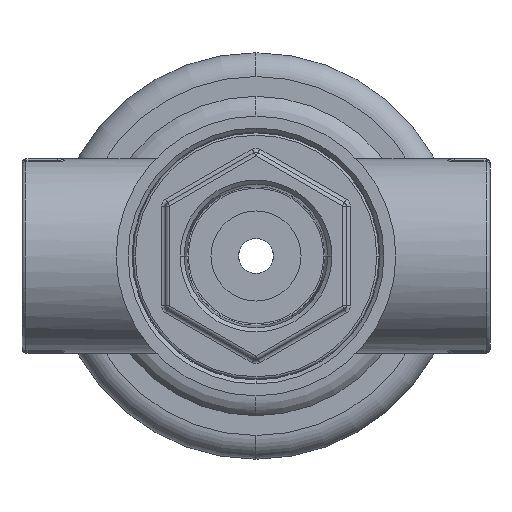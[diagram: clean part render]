
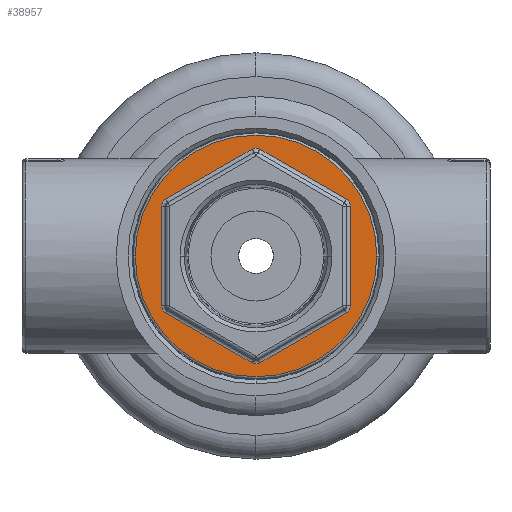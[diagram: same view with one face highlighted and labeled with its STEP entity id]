
A CAD part, front view. The second image highlights one B-rep face of the part: STEP entity #38957.
In plain terms, the highlighted planar face has unit normal (0, -1, 0).
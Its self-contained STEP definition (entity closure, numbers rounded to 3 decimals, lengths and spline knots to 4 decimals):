
#2484 = EDGE_LOOP ( 'NONE', ( #9892, #9893, #9894, #9895, #9896, #9897, #9898, #9899, #9900, #9901, #9902, #9903 ) ) ;
#2498 = EDGE_LOOP ( 'NONE', ( #9890, #9891 ) ) ;
#2602 = VERTEX_POINT ( 'NONE', #37727 ) ;
#2603 = VERTEX_POINT ( 'NONE', #37728 ) ;
#2636 = VERTEX_POINT ( 'NONE', #37761 ) ;
#2642 = VERTEX_POINT ( 'NONE', #37767 ) ;
#2648 = VERTEX_POINT ( 'NONE', #37773 ) ;
#2651 = VERTEX_POINT ( 'NONE', #37776 ) ;
#2652 = VERTEX_POINT ( 'NONE', #37777 ) ;
#2653 = VERTEX_POINT ( 'NONE', #37778 ) ;
#2654 = VERTEX_POINT ( 'NONE', #37779 ) ;
#2655 = VERTEX_POINT ( 'NONE', #37780 ) ;
#7762 = EDGE_CURVE ( 'NONE', #2602, #2603, #26633, .T. ) ;
#9267 = VERTEX_POINT ( 'NONE', #27900 ) ;
#9890 = ORIENTED_EDGE ( 'NONE', *, *, #7762, .T. ) ;
#9891 = ORIENTED_EDGE ( 'NONE', *, *, #10187, .T. ) ;
#9892 = ORIENTED_EDGE ( 'NONE', *, *, #10188, .F. ) ;
#9893 = ORIENTED_EDGE ( 'NONE', *, *, #10189, .T. ) ;
#9894 = ORIENTED_EDGE ( 'NONE', *, *, #10190, .F. ) ;
#9895 = ORIENTED_EDGE ( 'NONE', *, *, #10191, .T. ) ;
#9896 = ORIENTED_EDGE ( 'NONE', *, *, #10192, .F. ) ;
#9897 = ORIENTED_EDGE ( 'NONE', *, *, #10193, .T. ) ;
#9898 = ORIENTED_EDGE ( 'NONE', *, *, #10194, .F. ) ;
#9899 = ORIENTED_EDGE ( 'NONE', *, *, #10195, .T. ) ;
#9900 = ORIENTED_EDGE ( 'NONE', *, *, #10196, .F. ) ;
#9901 = ORIENTED_EDGE ( 'NONE', *, *, #10197, .T. ) ;
#9902 = ORIENTED_EDGE ( 'NONE', *, *, #10198, .F. ) ;
#9903 = ORIENTED_EDGE ( 'NONE', *, *, #10199, .T. ) ;
#10187 = EDGE_CURVE ( 'NONE', #2603, #2602, #26747, .T. ) ;
#10188 = EDGE_CURVE ( 'NONE', #2648, #2636, #26748, .T. ) ;
#10189 = EDGE_CURVE ( 'NONE', #2648, #2652, #26740, .T. ) ;
#10190 = EDGE_CURVE ( 'NONE', #2651, #2652, #26749, .T. ) ;
#10191 = EDGE_CURVE ( 'NONE', #2651, #2654, #26750, .T. ) ;
#10192 = EDGE_CURVE ( 'NONE', #2642, #2654, #26753, .T. ) ;
#10193 = EDGE_CURVE ( 'NONE', #2642, #9267, #26752, .T. ) ;
#10194 = EDGE_CURVE ( 'NONE', #2653, #9267, #26756, .T. ) ;
#10195 = EDGE_CURVE ( 'NONE', #2653, #30864, #26755, .T. ) ;
#10196 = EDGE_CURVE ( 'NONE', #2655, #30864, #26759, .T. ) ;
#10197 = EDGE_CURVE ( 'NONE', #2655, #30817, #26758, .T. ) ;
#10198 = EDGE_CURVE ( 'NONE', #30707, #30817, #26762, .T. ) ;
#10199 = EDGE_CURVE ( 'NONE', #30707, #2636, #26761, .T. ) ;
#26238 = CARTESIAN_POINT ( 'NONE',  ( 0., 0., 0. ) ) ;
#26239 = DIRECTION ( 'NONE',  ( 0., -1., 0. ) ) ;
#26240 = DIRECTION ( 'NONE',  ( 1., 0., 0. ) ) ;
#26633 = CIRCLE ( 'NONE', #41111, 1.5225 ) ;
#26740 = LINE ( 'NONE', #28166, #26751 ) ;
#26747 = CIRCLE ( 'NONE', #41172, 1.5225 ) ;
#26748 = CIRCLE ( 'NONE', #41173, 0.1 ) ;
#26749 = CIRCLE ( 'NONE', #41174, 0.1 ) ;
#26750 = LINE ( 'NONE', #28172, #26754 ) ;
#26751 = VECTOR ( 'NONE', #28162, 39.3701 ) ;
#26752 = LINE ( 'NONE', #28177, #26757 ) ;
#26753 = CIRCLE ( 'NONE', #41175, 0.1 ) ;
#26754 = VECTOR ( 'NONE', #28170, 39.3701 ) ;
#26755 = LINE ( 'NONE', #28182, #26760 ) ;
#26756 = CIRCLE ( 'NONE', #41176, 0.1 ) ;
#26757 = VECTOR ( 'NONE', #28171, 39.3701 ) ;
#26758 = LINE ( 'NONE', #28187, #26763 ) ;
#26759 = CIRCLE ( 'NONE', #41177, 0.1 ) ;
#26760 = VECTOR ( 'NONE', #28176, 39.3701 ) ;
#26761 = LINE ( 'NONE', #28191, #26766 ) ;
#26762 = CIRCLE ( 'NONE', #41178, 0.1 ) ;
#26763 = VECTOR ( 'NONE', #28181, 39.3701 ) ;
#26766 = VECTOR ( 'NONE', #28186, 39.3701 ) ;
#27325 = FACE_OUTER_BOUND ( 'NONE', #2498, .T. ) ;
#27328 = FACE_BOUND ( 'NONE', #2484, .T. ) ;
#27900 = CARTESIAN_POINT ( 'NONE',  ( -1.1906, 0., 0.6297 ) ) ;
#28162 = DIRECTION ( 'NONE',  ( -0.866, 0., -0.5 ) ) ;
#28163 = CARTESIAN_POINT ( 'NONE',  ( 0., 0., 0. ) ) ;
#28164 = DIRECTION ( 'NONE',  ( 0., -1., 0. ) ) ;
#28165 = DIRECTION ( 'NONE',  ( 1., 0., 0. ) ) ;
#28166 = CARTESIAN_POINT ( 'NONE',  ( -0.6066, 0., -1.725 ) ) ;
#28167 = CARTESIAN_POINT ( 'NONE',  ( 1.0906, 0., -0.6297 ) ) ;
#28168 = DIRECTION ( 'NONE',  ( 0., -1., 0. ) ) ;
#28169 = DIRECTION ( 'NONE',  ( 1., 0., 0. ) ) ;
#28170 = DIRECTION ( 'NONE',  ( -0.866, 0., 0.5 ) ) ;
#28171 = DIRECTION ( 'NONE',  ( 0., 0., 1. ) ) ;
#28172 = CARTESIAN_POINT ( 'NONE',  ( -1.7972, 0., -0.3372 ) ) ;
#28173 = CARTESIAN_POINT ( 'NONE',  ( 0., 0., -1.2593 ) ) ;
#28174 = DIRECTION ( 'NONE',  ( 0., -1., 0. ) ) ;
#28175 = DIRECTION ( 'NONE',  ( 1., 0., 0. ) ) ;
#28176 = DIRECTION ( 'NONE',  ( 0.866, 0., 0.5 ) ) ;
#28177 = CARTESIAN_POINT ( 'NONE',  ( -1.1906, 0., 0. ) ) ;
#28178 = CARTESIAN_POINT ( 'NONE',  ( -1.0906, 0., -0.6297 ) ) ;
#28179 = DIRECTION ( 'NONE',  ( 0., -1., 0. ) ) ;
#28180 = DIRECTION ( 'NONE',  ( 1., 0., 0. ) ) ;
#28181 = DIRECTION ( 'NONE',  ( 0.866, 0., -0.5 ) ) ;
#28182 = CARTESIAN_POINT ( 'NONE',  ( -1.7972, 0., 0.3372 ) ) ;
#28183 = CARTESIAN_POINT ( 'NONE',  ( -1.0906, 0., 0.6297 ) ) ;
#28184 = DIRECTION ( 'NONE',  ( 0., -1., 0. ) ) ;
#28185 = DIRECTION ( 'NONE',  ( 1., 0., 0. ) ) ;
#28186 = DIRECTION ( 'NONE',  ( 0., 0., -1. ) ) ;
#28187 = CARTESIAN_POINT ( 'NONE',  ( -0.6066, 0., 1.725 ) ) ;
#28188 = CARTESIAN_POINT ( 'NONE',  ( 0., 0., 1.2593 ) ) ;
#28189 = DIRECTION ( 'NONE',  ( 0., -1., 0. ) ) ;
#28190 = DIRECTION ( 'NONE',  ( 1., 0., 0. ) ) ;
#28191 = CARTESIAN_POINT ( 'NONE',  ( 1.1906, 0., 0. ) ) ;
#28192 = CARTESIAN_POINT ( 'NONE',  ( 1.0906, 0., 0.6297 ) ) ;
#28193 = DIRECTION ( 'NONE',  ( 0., -1., 0. ) ) ;
#28194 = DIRECTION ( 'NONE',  ( 1., 0., 0. ) ) ;
#30707 = VERTEX_POINT ( 'NONE', #31373 ) ;
#30817 = VERTEX_POINT ( 'NONE', #31379 ) ;
#30864 = VERTEX_POINT ( 'NONE', #31392 ) ;
#31373 = CARTESIAN_POINT ( 'NONE',  ( 1.1906, 0., 0.6297 ) ) ;
#31379 = CARTESIAN_POINT ( 'NONE',  ( 1.1406, 0., 0.7163 ) ) ;
#31392 = CARTESIAN_POINT ( 'NONE',  ( -0.05, 0., 1.3459 ) ) ;
#31682 = CARTESIAN_POINT ( 'NONE',  ( -1.6025, 0., 0. ) ) ;
#31690 = PLANE ( 'NONE',  #32676 ) ;
#31692 = DIRECTION ( 'NONE',  ( 0., -1., 0. ) ) ;
#31693 = DIRECTION ( 'NONE',  ( 1., 0., 0. ) ) ;
#32676 = AXIS2_PLACEMENT_3D ( 'NONE', #31682, #31692, #31693 ) ;
#37727 = CARTESIAN_POINT ( 'NONE',  ( 1.5225, 0., 0. ) ) ;
#37728 = CARTESIAN_POINT ( 'NONE',  ( -1.5225, 0., 0. ) ) ;
#37761 = CARTESIAN_POINT ( 'NONE',  ( 1.1906, 0., -0.6297 ) ) ;
#37767 = CARTESIAN_POINT ( 'NONE',  ( -1.1906, 0., -0.6297 ) ) ;
#37773 = CARTESIAN_POINT ( 'NONE',  ( 1.1406, 0., -0.7163 ) ) ;
#37776 = CARTESIAN_POINT ( 'NONE',  ( -0.05, 0., -1.3459 ) ) ;
#37777 = CARTESIAN_POINT ( 'NONE',  ( 0.05, 0., -1.3459 ) ) ;
#37778 = CARTESIAN_POINT ( 'NONE',  ( -1.1406, 0., 0.7163 ) ) ;
#37779 = CARTESIAN_POINT ( 'NONE',  ( -1.1406, 0., -0.7163 ) ) ;
#37780 = CARTESIAN_POINT ( 'NONE',  ( 0.05, 0., 1.3459 ) ) ;
#38957 = ADVANCED_FACE ( 'NONE', ( #27325, #27328 ), #31690, .T. ) ;
#41111 = AXIS2_PLACEMENT_3D ( 'NONE', #26238, #26239, #26240 ) ;
#41172 = AXIS2_PLACEMENT_3D ( 'NONE', #28163, #28164, #28165 ) ;
#41173 = AXIS2_PLACEMENT_3D ( 'NONE', #28167, #28168, #28169 ) ;
#41174 = AXIS2_PLACEMENT_3D ( 'NONE', #28173, #28174, #28175 ) ;
#41175 = AXIS2_PLACEMENT_3D ( 'NONE', #28178, #28179, #28180 ) ;
#41176 = AXIS2_PLACEMENT_3D ( 'NONE', #28183, #28184, #28185 ) ;
#41177 = AXIS2_PLACEMENT_3D ( 'NONE', #28188, #28189, #28190 ) ;
#41178 = AXIS2_PLACEMENT_3D ( 'NONE', #28192, #28193, #28194 ) ;
